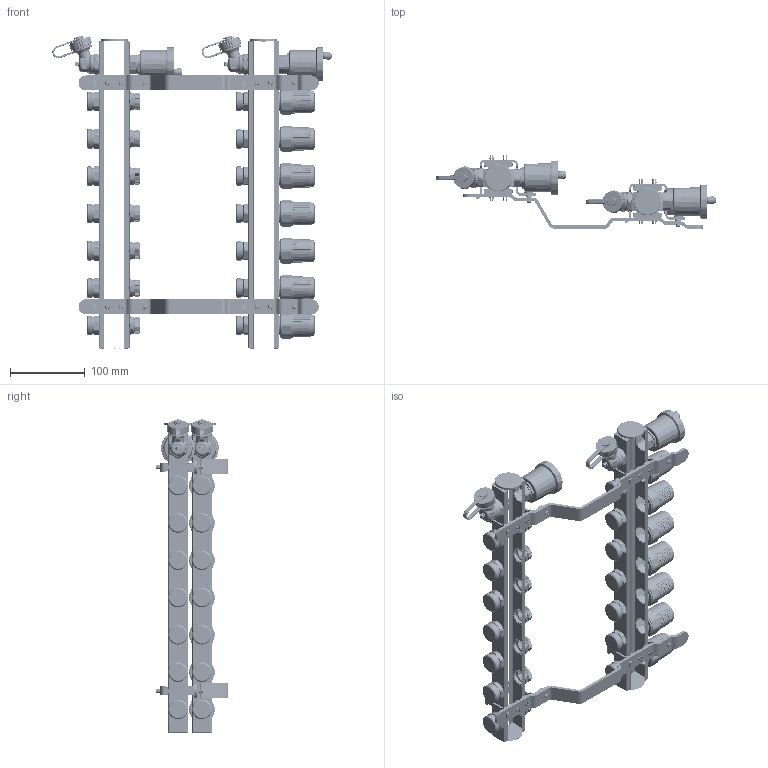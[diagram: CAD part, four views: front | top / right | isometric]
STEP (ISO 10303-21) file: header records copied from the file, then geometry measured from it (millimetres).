
FILE_DESCRIPTION(('STEP AP203'), '1');
FILE_NAME('VTc.594.EMNX.0607', '2025-11-26T12:13:22', ('verevichevva'), ('Vesta'), 'C3D Converter', 'C3D Toolkit', '');
FILE_SCHEMA(('CONFIG_CONTROL_DESIGN'));
Length unit declared in the file: millimetre
Products named in the file (1): ВР.622621.159.000 СБ
Bounding box: 374.1 x 97.53 x 419.67 mm (x, y, z)
Surface area: 283445.1 mm2 (no closed solid volume)
Topology: 0 solids, 1 shells, 12033 faces, 31555 edges, 19291 vertices
Faces by surface type: cylinder 3576, bspline 2938, plane 2486, torus 1548, cone 1183, sphere 302
Full cylindrical faces by diameter (mm): 4.2 x2, 6 x12, 6.8 x4, 7 x2, 8.352 x4, 8.4 x4, 9.5 x2, 11.2 x2, 11.5 x2, 12 x4, 16 x2, 17 x7, 18 x23, 20.8 x7, 21.5 x7, 23.3 x14, 24.5 x7, 25 x15, 25.8 x2, 26.1 x14, 28.4 x2, 33 x7, 34 x7
Entity records: 690103 total; most frequent: CARTESIAN_POINT 430217, ORIENTED_EDGE 61514, DIRECTION 43020, EDGE_CURVE 30763, VERTEX_POINT 19279, AXIS2_PLACEMENT_3D 18065, B_SPLINE_CURVE_WITH_KNOTS 14795, EDGE_LOOP 12824
